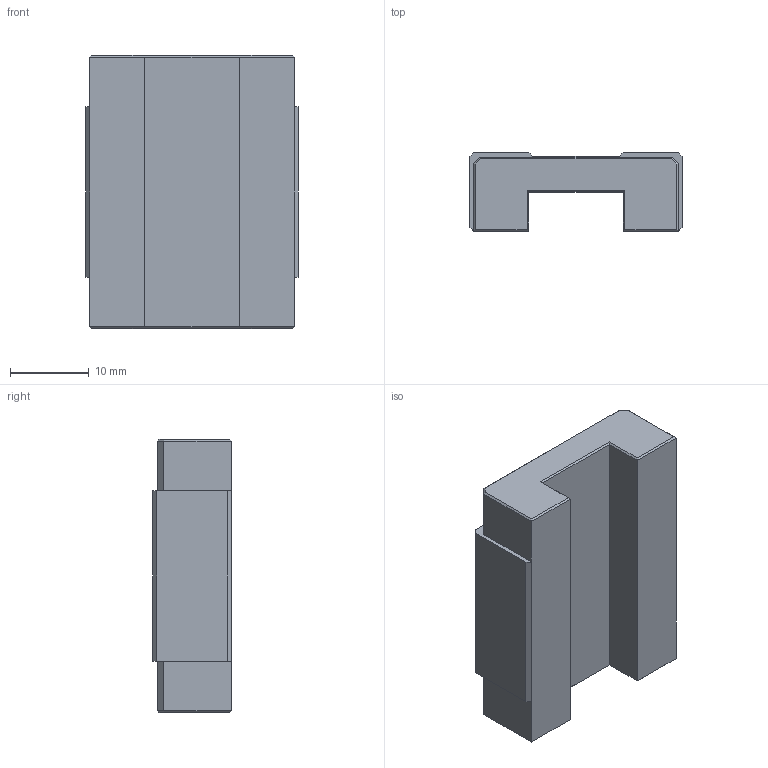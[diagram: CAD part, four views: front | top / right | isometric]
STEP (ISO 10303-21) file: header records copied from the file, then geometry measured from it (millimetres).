
FILE_DESCRIPTION(/* description */ (''),/* implementation_level */ '2;1');
FILE_NAME(/* name */ 'C:\Users\daviddillkoetter\ownCloud\Kamp und Kötter\Artikel\Miniaturfuehrungen_KPM\Step\KPMW-12C-BSZ0.stp',/* time_stamp */ '2020-12-07T12:24:33+01:00',/* author */ ('daviddillkoetter'),/* organization */ (''),/* preprocessor_version */ 'ST-DEVELOPER v18.1',/* originating_system */ 'Autodesk Inventor 2021',/* authorisation */ '');
FILE_SCHEMA (('AUTOMOTIVE_DESIGN { 1 0 10303 214 3 1 1 }'));
Length unit declared in the file: millimetre
Products named in the file (1): KPMW-12C-BSZ0
Bounding box: 27 x 10 x 34.7 mm (x, y, z)
Volume: 6706.8 mm3; surface area: 3387.5 mm2
Topology: 1 solids, 1 shells, 62 faces, 152 edges, 92 vertices
Faces by surface type: plane 50, cone 8, cylinder 4
Full cylindrical faces by diameter (mm): 2.459 x4
Entity records: 1819 total; most frequent: CARTESIAN_POINT 303, ORIENTED_EDGE 296, DIRECTION 290, EDGE_CURVE 148, LINE 132, VECTOR 132, VERTEX_POINT 92, AXIS2_PLACEMENT_3D 79
